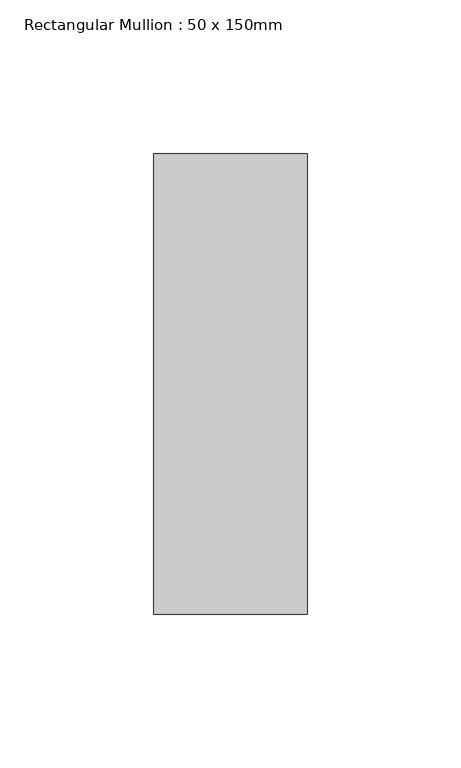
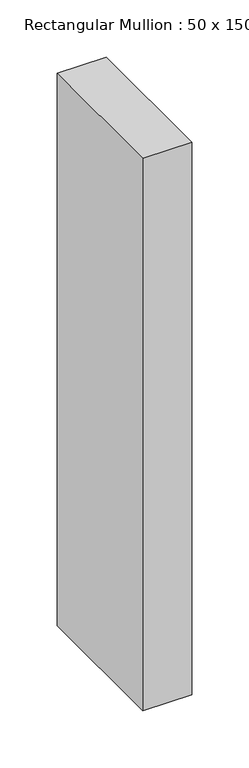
"""IFC4 building model written with IfcOpenShell, lengths in millimetres: member geometry, Rectangular Mullion : 50 x 150mm."""

import ifcopenshell
import ifcopenshell.guid

model = None  # the IFC model being written
_history = None  # IfcOwnerHistory: only IFC2X3 demands one
_inside = {}  # id of a spatial element -> (the spatial element, [elements in it])
_under = {}  # id of a project, library or spatial element -> (it, [spatial elements below it])
_declared = {}  # id of a project -> (the project, [libraries it declares])
_typed = {}  # id of a type object -> (the type object, [elements of that type])
_made_of = {}  # id of a material, layer set ... -> (it, [elements and type objects made of it])


def new_model(schema):
    """Start an empty IFC model of exactly this schema.

    Asked for "IFC4X3", IfcOpenShell would pick the latest addendum, in which some entities
    have other attributes; the version numbers below select the first issue.
    IFC2X3 requires an IfcOwnerHistory on every rooted entity: one is made here for all.
    """
    global model, _history
    if schema == "IFC4X3":
        model = ifcopenshell.file(schema_version=(4, 3, 0, 0))
    else:
        model = ifcopenshell.file(schema=schema)
    _inside.clear()
    _under.clear()
    _declared.clear()
    _typed.clear()
    _made_of.clear()
    _history = None
    if model.schema == "IFC2X3":
        org = make("IfcOrganization", Name="unknown")
        user = make(
            "IfcPersonAndOrganization",
            ThePerson=make("IfcPerson", FamilyName="unknown"),
            TheOrganization=org,
        )
        app = make(
            "IfcApplication",
            ApplicationDeveloper=org,
            Version="unknown",
            ApplicationFullName="unknown",
            ApplicationIdentifier="unknown",
        )
        _history = make(
            "IfcOwnerHistory",
            OwningUser=user,
            OwningApplication=app,
            ChangeAction="ADDED",
            CreationDate=0,
        )
    return model


def make(cls, **values):
    """One entity of the class cls with the attributes given. An attribute that is None is left unset."""
    return model.create_entity(
        cls, **{name: value for name, value in values.items() if value is not None}
    )


def rooted(cls, **values):
    """An entity with a GlobalId (a new one), such as an element, a storey or a relation."""
    return make(cls, GlobalId=ifcopenshell.guid.new(), OwnerHistory=_history, **values)


def si_unit(unit_type, name, prefix=None):
    """IfcSIUnit, for example si_unit("LENGTHUNIT", "METRE", prefix="MILLI")."""
    return make("IfcSIUnit", UnitType=unit_type, Prefix=prefix, Name=name)


def assignment(units):
    """IfcUnitAssignment: the units of a project."""
    return None if units is None else make("IfcUnitAssignment", Units=units)


def point(xyz):
    """IfcCartesianPoint."""
    return None if xyz is None else make("IfcCartesianPoint", Coordinates=xyz)


def direction(xyz):
    """IfcDirection."""
    return None if xyz is None else make("IfcDirection", DirectionRatios=xyz)


def frame(location, z_axis=None, x_axis=None):
    """IfcAxis2Placement3D, a coordinate frame: its origin and axes. An axis left out is left unset."""
    return make(
        "IfcAxis2Placement3D",
        Location=point(location),
        Axis=direction(z_axis),
        RefDirection=direction(x_axis),
    )


def origin():
    """The frame at (0, 0, 0) with its axes left unset."""
    return frame((0.0, 0.0, 0.0))


def place(relative_to, where):
    """IfcLocalPlacement: puts the frame where relative to a parent placement (None: the world)."""
    return make(
        "IfcLocalPlacement", PlacementRelTo=relative_to, RelativePlacement=where
    )


def context(
    kind, dimensions, precision=None, world=None, true_north=None, identifier=None
):
    """IfcGeometricRepresentationContext, for example the 3D "Model" context."""
    return make(
        "IfcGeometricRepresentationContext",
        ContextIdentifier=identifier,
        ContextType=kind,
        CoordinateSpaceDimension=dimensions,
        Precision=precision,
        WorldCoordinateSystem=world,
        TrueNorth=true_north,
    )


def project(units=None, contexts=None):
    """IfcProject with its units and contexts."""
    return rooted(
        "IfcProject",
        Name="project",
        RepresentationContexts=contexts,
        UnitsInContext=assignment(units),
    )


def spatial(cls, under=None, at=None, **own):
    """A site, building, storey or space (cls), placed at a placement, below another one or the project."""
    s = rooted(cls, ObjectPlacement=at, **own)
    if under is not None:
        _under.setdefault(under.id(), (under, []))[1].append(s)
    return s


def polyline(points):
    """IfcPolyline through the points."""
    return make("IfcPolyline", Points=[point(p) for p in points])


def outline(outer, holes=None, kind="AREA"):
    """IfcArbitraryClosedProfileDef: a profile drawn as a closed curve; with holes, ...WithVoids."""
    if holes is None:
        return make("IfcArbitraryClosedProfileDef", ProfileType=kind, OuterCurve=outer)
    return make(
        "IfcArbitraryProfileDefWithVoids",
        ProfileType=kind,
        OuterCurve=outer,
        InnerCurves=holes,
    )


def extrude(swept, where, along, depth):
    """IfcExtrudedAreaSolid: the profile swept, set in the frame where, extruded along a direction by depth."""
    return make(
        "IfcExtrudedAreaSolid",
        SweptArea=swept,
        Position=where,
        ExtrudedDirection=direction(along),
        Depth=depth,
    )


def shape(context_of_items, identifier, shape_type, items):
    """IfcShapeRepresentation: the items that make up one representation, for example the "Body"."""
    return make(
        "IfcShapeRepresentation",
        ContextOfItems=context_of_items,
        RepresentationIdentifier=identifier,
        RepresentationType=shape_type,
        Items=items,
    )


def source(mapping_origin, context_of_items, identifier, shape_type, items):
    """IfcRepresentationMap: a shape defined once, which mapped items show again and again."""
    return make(
        "IfcRepresentationMap",
        MappingOrigin=mapping_origin,
        MappedRepresentation=shape(context_of_items, identifier, shape_type, items),
    )


def transform(
    local_origin,
    x_axis=None,
    y_axis=None,
    z_axis=None,
    scale=None,
    scale2=None,
    scale3=None,
    uniform=True,
):
    """IfcCartesianTransformationOperator3D, or its non-uniform kind. x_axis, y_axis, z_axis: its Axis1, 2, 3."""
    if uniform:
        return make(
            "IfcCartesianTransformationOperator3D",
            Axis1=direction(x_axis),
            Axis2=direction(y_axis),
            LocalOrigin=point(local_origin),
            Scale=scale,
            Axis3=direction(z_axis),
        )
    return make(
        "IfcCartesianTransformationOperator3DnonUniform",
        Axis1=direction(x_axis),
        Axis2=direction(y_axis),
        LocalOrigin=point(local_origin),
        Scale=scale,
        Axis3=direction(z_axis),
        Scale2=scale2,
        Scale3=scale3,
    )


def mapped(mapping_source, mapping_target):
    """IfcMappedItem: shows the shape of a source again, moved by a transform."""
    return make(
        "IfcMappedItem", MappingSource=mapping_source, MappingTarget=mapping_target
    )


def made_of(thing, what):
    """Note that an element or type object is made of a material, layer set ...; save() writes the relation."""
    if what is not None:
        _made_of.setdefault(what.id(), (what, []))[1].append(thing)
    return thing


def element(
    cls,
    number,
    at=None,
    inside=None,
    cuts=None,
    type_object=None,
    material=None,
    context=None,
    identifier="Body",
    shape_type=None,
    held_by="IfcProductDefinitionShape",
    body=None,
    shapes=None,
    **own,
):
    """One element of the class cls, such as IfcWall. Its Tag is "e" and its number.

    at: its placement. inside: the storey or other place that contains it. cuts: it is an
    opening in that element (IfcRelVoidsElement). A single representation is given by context,
    identifier, shape_type and body (its items); several are given by shapes. held_by: the class
    of the entity that holds the representations. save() writes the other relations.
    """
    e = rooted(cls, Tag="e%d" % number, ObjectPlacement=at, **own)
    if body is not None:
        shapes = [shape(context, identifier, shape_type, body)]
    if shapes is not None:
        e.Representation = make(held_by, Representations=shapes)
    if inside is not None:
        _inside.setdefault(inside.id(), (inside, []))[1].append(e)
    if cuts is not None:
        rooted(
            "IfcRelVoidsElement", RelatingBuildingElement=cuts, RelatedOpeningElement=e
        )
    if type_object is not None:
        _typed.setdefault(type_object.id(), (type_object, []))[1].append(e)
    return made_of(e, material)


def aggregate(whole, parts):
    """IfcRelAggregates: a whole, such as a stair, and the parts it consists of."""
    return rooted("IfcRelAggregates", RelatingObject=whole, RelatedObjects=parts)


def save(model, path):
    """Write the relations noted so far, then the file.

    IfcRelAggregates (storeys below a building ...), IfcRelContainedInSpatialStructure (elements
    in a storey), IfcRelDefinesByType, IfcRelAssociatesMaterial and IfcRelDeclares: one each for
    every whole, place, type object, material and project.
    """
    for whole, parts in _under.values():
        aggregate(whole, parts)
    for where, things in _inside.values():
        rooted(
            "IfcRelContainedInSpatialStructure",
            RelatedElements=things,
            RelatingStructure=where,
        )
    for kind, things in _typed.values():
        rooted("IfcRelDefinesByType", RelatedObjects=things, RelatingType=kind)
    for what, things in _made_of.values():
        rooted("IfcRelAssociatesMaterial", RelatedObjects=things, RelatingMaterial=what)
    for by, libraries in _declared.values():
        rooted("IfcRelDeclares", RelatingContext=by, RelatedDefinitions=libraries)
    model.write(path)


def rectangular_mullion_50_x_150mm_eeafe6a4(model_context):
    return source(origin(), model_context, "Body", "SweptSolid", [
        extrude(outline(polyline([(0.0, 75.0), (0.0, -75.0), (-50.0, -75.0), (-50.0, 75.0), (0.0, 75.0)])), frame((0.0, 0.0, -591.4776696), z_axis=(0.0, 0.0, 1.0), x_axis=(1.0, 0.0, 0.0)), (0.0, 0.0, 1.0), 591.4776696),
    ])


if __name__ == "__main__":
    model = new_model("IFC4")
    model_context = context("Model", 3, world=origin())
    ifc_project = project(units=[si_unit("LENGTHUNIT", "METRE", prefix="MILLI")], contexts=[model_context])
    site = spatial("IfcSite", under=ifc_project)
    building = spatial("IfcBuilding", under=site)
    placement = place(None, origin())
    rectangular_mullion_50_x_150mm_shape = rectangular_mullion_50_x_150mm_eeafe6a4(model_context)
    element("IfcMember", 1, ObjectType="Rectangular Mullion : 50 x 150mm", at=placement, inside=building, context=model_context, shape_type="MappedRepresentation", body=[
        mapped(rectangular_mullion_50_x_150mm_shape, transform((0.0, 0.0, 0.0), x_axis=(1.0, 0.0, 0.0), y_axis=(0.0, 1.0, 0.0), z_axis=(0.0, 0.0, 1.0))),
    ])
    save(model, "model.ifc")
